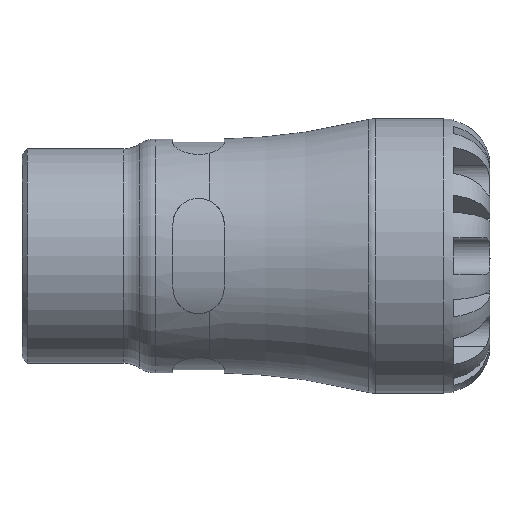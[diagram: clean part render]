
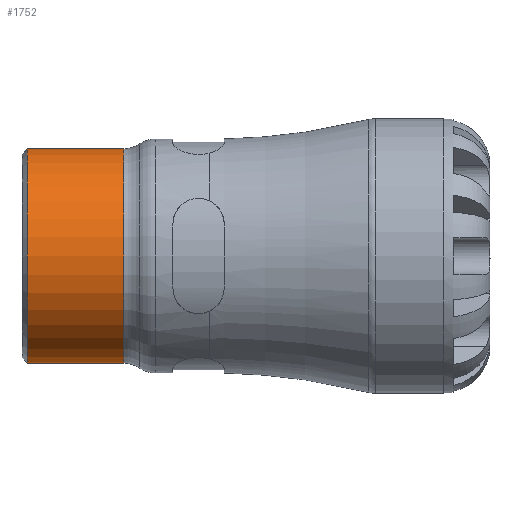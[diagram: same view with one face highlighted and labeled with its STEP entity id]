
A CAD part, front view. The second image highlights one B-rep face of the part: STEP entity #1752.
In plain terms, the highlighted cylindrical face has radius 18.33 mm (diameter 36.66 mm), a full revolution.
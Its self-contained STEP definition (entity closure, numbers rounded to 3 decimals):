
#257=FACE_BOUND('',#419,.T.);
#299=FACE_OUTER_BOUND('',#418,.T.);
#418=EDGE_LOOP('',(#1247));
#419=EDGE_LOOP('',(#1248));
#558=CIRCLE('',#1918,18.33);
#559=CIRCLE('',#1920,18.33);
#746=VERTEX_POINT('',#3053);
#747=VERTEX_POINT('',#3056);
#930=EDGE_CURVE('',#746,#746,#558,.T.);
#931=EDGE_CURVE('',#747,#747,#559,.T.);
#1247=ORIENTED_EDGE('',*,*,#931,.F.);
#1248=ORIENTED_EDGE('',*,*,#930,.F.);
#1593=CYLINDRICAL_SURFACE('',#1919,18.33);
#1752=ADVANCED_FACE('',(#299,#257),#1593,.T.);
#1918=AXIS2_PLACEMENT_3D('',#3054,#2229,#2230);
#1919=AXIS2_PLACEMENT_3D('',#3055,#2231,#2232);
#1920=AXIS2_PLACEMENT_3D('',#3057,#2233,#2234);
#2229=DIRECTION('center_axis',(-1.,0.,0.));
#2230=DIRECTION('ref_axis',(0.,-1.,0.));
#2231=DIRECTION('center_axis',(1.,0.,0.));
#2232=DIRECTION('ref_axis',(0.,1.,0.));
#2233=DIRECTION('center_axis',(1.,0.,0.));
#2234=DIRECTION('ref_axis',(0.,1.,0.));
#3053=CARTESIAN_POINT('',(0.909,18.33,0.));
#3054=CARTESIAN_POINT('Origin',(0.909,0.,0.));
#3055=CARTESIAN_POINT('Origin',(10.5,0.,0.));
#3056=CARTESIAN_POINT('',(17.428,-18.33,0.));
#3057=CARTESIAN_POINT('Origin',(17.428,0.,0.));
